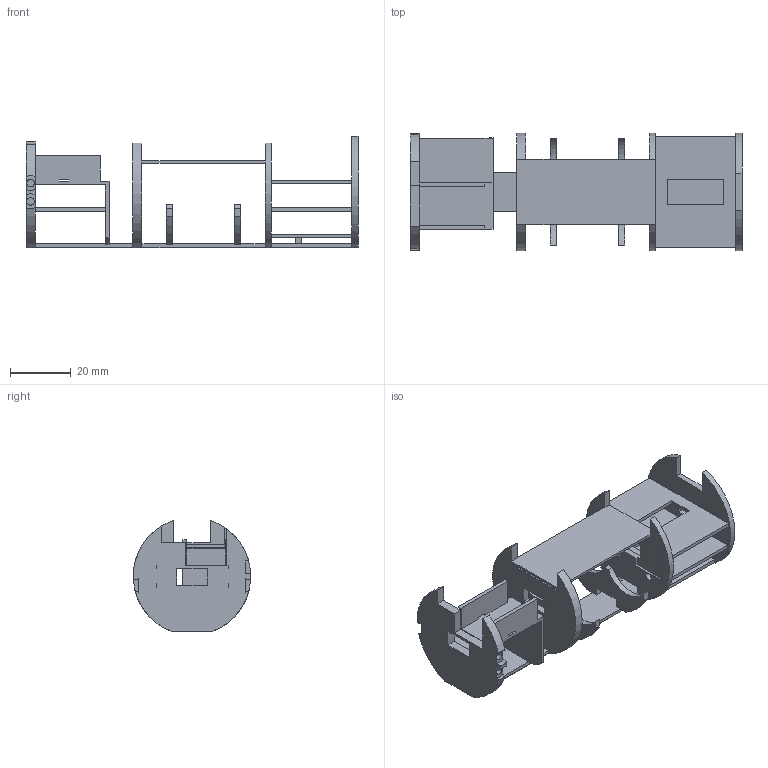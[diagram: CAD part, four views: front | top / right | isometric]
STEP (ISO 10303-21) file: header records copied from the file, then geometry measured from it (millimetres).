
FILE_DESCRIPTION(('Open CASCADE Model'),'2;1');
FILE_NAME('Open CASCADE Shape Model','2026-11-03T00:01:05',('Author'),( 'Open CASCADE'),'Open CASCADE STEP processor 8.0','build123d', 'Unknown');
FILE_SCHEMA(('AUTOMOTIVE_DESIGN { 1 0 10303 214 1 1 1 1 }'));
Length unit declared in the file: millimetre
Products named in the file (1): COMPOUND
Bounding box: 109.07 x 38.59 x 36.54 mm (x, y, z)
Volume: 15978.3 mm3; surface area: 23039.5 mm2
Topology: 1 solids, 1 shells, 199 faces, 646 edges, 430 vertices
Faces by surface type: plane 172, cylinder 27
Full cylindrical faces by diameter (mm): 2.5 x6
Entity records: 15388 total; most frequent: CARTESIAN_POINT 3856, DIRECTION 1699, ORIENTED_EDGE 1292, PCURVE 1292, DEFINITIONAL_REPRESENTATION 1292, LINE 1133, VECTOR 1133, B_SPLINE_CURVE_WITH_KNOTS 685
